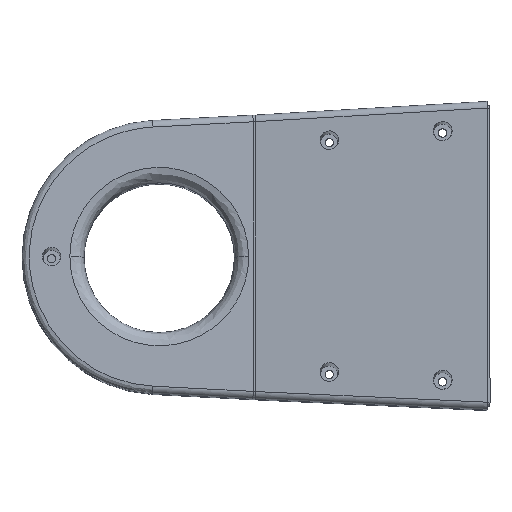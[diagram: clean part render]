
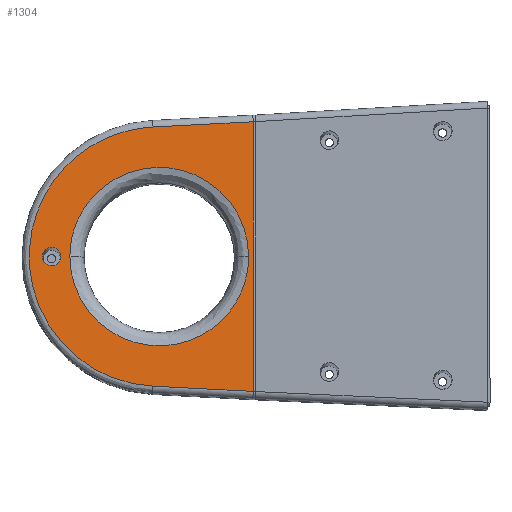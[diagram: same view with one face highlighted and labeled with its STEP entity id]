
A CAD part, left-side view. The second image highlights one B-rep face of the part: STEP entity #1304.
In plain terms, the highlighted planar face has unit normal (-0.998, 0, 0.067).
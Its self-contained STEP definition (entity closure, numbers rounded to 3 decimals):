
#59 = EDGE_LOOP ( 'NONE', ( #3996, #190 ) ) ;
#145 = CARTESIAN_POINT ( 'NONE',  ( 42.486, 103.949, 174.458 ) ) ;
#149 = VECTOR ( 'NONE', #3897, 1000. ) ;
#157 = AXIS2_PLACEMENT_3D ( 'NONE', #2245, #3018, #3399 ) ;
#173 = CARTESIAN_POINT ( 'NONE',  ( 38.249, 103.949, 111.494 ) ) ;
#176 = EDGE_CURVE ( 'NONE', #4676, #1880, #2973, .T. ) ;
#190 = ORIENTED_EDGE ( 'NONE', *, *, #3051, .F. ) ;
#238 = CARTESIAN_POINT ( 'NONE',  ( 42.486, 40.842, 174.458 ) ) ;
#270 = CARTESIAN_POINT ( 'NONE',  ( 45.562, 74.797, 220.175 ) ) ;
#308 = AXIS2_PLACEMENT_3D ( 'NONE', #1126, #4089, #2995 ) ;
#348 =( BOUNDED_CURVE ( )  B_SPLINE_CURVE ( 3, ( #2851, #173, #2110, #238 ),
 .UNSPECIFIED., .F., .F. ) 
 B_SPLINE_CURVE_WITH_KNOTS ( ( 4, 4 ),
 ( 0.5, 1. ),
 .UNSPECIFIED. ) 
 CURVE ( )  GEOMETRIC_REPRESENTATION_ITEM ( )  RATIONAL_B_SPLINE_CURVE ( ( 1., 0.333, 0.333, 1. ) ) 
 REPRESENTATION_ITEM ( '' )  );
#380 = LINE ( 'NONE', #1111, #2396 ) ;
#429 = CARTESIAN_POINT ( 'NONE',  ( 39.409, 74.797, 128.74 ) ) ;
#579 = ORIENTED_EDGE ( 'NONE', *, *, #1422, .F. ) ;
#608 = EDGE_CURVE ( 'NONE', #4713, #909, #1492, .T. ) ;
#626 = CARTESIAN_POINT ( 'NONE',  ( 42.269, 110.395, 171.234 ) ) ;
#796 = CARTESIAN_POINT ( 'NONE',  ( 45.27, 157.641, 215.843 ) ) ;
#909 = VERTEX_POINT ( 'NONE', #626 ) ;
#988 = VECTOR ( 'NONE', #4829, 1000. ) ;
#1111 = CARTESIAN_POINT ( 'NONE',  ( 39.284, 39.24, 126.881 ) ) ;
#1126 = CARTESIAN_POINT ( 'NONE',  ( 42.486, 110.395, 174.458 ) ) ;
#1304 = ADVANCED_FACE ( 'NONE', ( #2210, #1902, #3140 ), #1476, .F. ) ;
#1342 = EDGE_LOOP ( 'NONE', ( #3622, #4690, #1530, #579 ) ) ;
#1394 = CARTESIAN_POINT ( 'NONE',  ( 42.486, 40.842, 174.458 ) ) ;
#1422 = EDGE_CURVE ( 'NONE', #2537, #3434, #3269, .T. ) ;
#1476 = PLANE ( 'NONE',  #157 ) ;
#1492 = CIRCLE ( 'NONE', #308, 3.231 ) ;
#1530 = ORIENTED_EDGE ( 'NONE', *, *, #3846, .F. ) ;
#1540 = ORIENTED_EDGE ( 'NONE', *, *, #2598, .F. ) ;
#1579 = CARTESIAN_POINT ( 'NONE',  ( 39.701, 157.641, 133.072 ) ) ;
#1783 = VERTEX_POINT ( 'NONE', #3879 ) ;
#1880 = VERTEX_POINT ( 'NONE', #1964 ) ;
#1902 = FACE_BOUND ( 'NONE', #59, .T. ) ;
#1964 = CARTESIAN_POINT ( 'NONE',  ( 45.687, 39.24, 222.034 ) ) ;
#1987 = CARTESIAN_POINT ( 'NONE',  ( 45.562, 74.797, 220.175 ) ) ;
#2022 = CARTESIAN_POINT ( 'NONE',  ( 39.284, 39.24, 126.881 ) ) ;
#2040 = CARTESIAN_POINT ( 'NONE',  ( 46.722, 40.842, 237.421 ) ) ;
#2057 = CARTESIAN_POINT ( 'NONE',  ( 42.486, 40.842, 174.458 ) ) ;
#2110 = CARTESIAN_POINT ( 'NONE',  ( 38.249, 40.842, 111.494 ) ) ;
#2210 = FACE_OUTER_BOUND ( 'NONE', #1342, .T. ) ;
#2245 = CARTESIAN_POINT ( 'NONE',  ( 27.942, 120.875, -41.663 ) ) ;
#2377 = ORIENTED_EDGE ( 'NONE', *, *, #608, .F. ) ;
#2396 = VECTOR ( 'NONE', #4483, 1000. ) ;
#2416 = CARTESIAN_POINT ( 'NONE',  ( 45.562, 74.797, 220.175 ) ) ;
#2438 = DIRECTION ( 'NONE',  ( 0.067, 0., 0.998 ) ) ;
#2537 = VERTEX_POINT ( 'NONE', #429 ) ;
#2598 = EDGE_CURVE ( 'NONE', #909, #4713, #2871, .T. ) ;
#2612 = EDGE_CURVE ( 'NONE', #3179, #1783, #4671, .T. ) ;
#2680 = AXIS2_PLACEMENT_3D ( 'NONE', #4693, #4711, #2438 ) ;
#2794 = CARTESIAN_POINT ( 'NONE',  ( 46.722, 103.949, 237.421 ) ) ;
#2851 = CARTESIAN_POINT ( 'NONE',  ( 42.486, 103.949, 174.458 ) ) ;
#2871 = CIRCLE ( 'NONE', #2680, 3.231 ) ;
#2973 = LINE ( 'NONE', #3672, #988 ) ;
#2995 = DIRECTION ( 'NONE',  ( 0.067, 0., 0.998 ) ) ;
#3018 = DIRECTION ( 'NONE',  ( 0.998, 0., -0.067 ) ) ;
#3045 = CARTESIAN_POINT ( 'NONE',  ( 42.702, 110.395, 177.682 ) ) ;
#3051 = EDGE_CURVE ( 'NONE', #1783, #3179, #348, .T. ) ;
#3088 = CARTESIAN_POINT ( 'NONE',  ( 39.409, 74.797, 128.74 ) ) ;
#3140 = FACE_BOUND ( 'NONE', #4846, .T. ) ;
#3179 = VERTEX_POINT ( 'NONE', #1394 ) ;
#3217 = EDGE_CURVE ( 'NONE', #4676, #2537, #380, .T. ) ;
#3269 =( BOUNDED_CURVE ( )  B_SPLINE_CURVE ( 3, ( #3088, #1579, #796, #1987 ),
 .UNSPECIFIED., .F., .F. ) 
 B_SPLINE_CURVE_WITH_KNOTS ( ( 4, 4 ),
 ( 0., 1. ),
 .UNSPECIFIED. ) 
 CURVE ( )  GEOMETRIC_REPRESENTATION_ITEM ( )  RATIONAL_B_SPLINE_CURVE ( ( 1., 0.368, 0.368, 1. ) ) 
 REPRESENTATION_ITEM ( '' )  );
#3375 = LINE ( 'NONE', #2416, #149 ) ;
#3399 = DIRECTION ( 'NONE',  ( -0.067, 0., -0.998 ) ) ;
#3434 = VERTEX_POINT ( 'NONE', #270 ) ;
#3622 = ORIENTED_EDGE ( 'NONE', *, *, #3217, .F. ) ;
#3672 = CARTESIAN_POINT ( 'NONE',  ( 27.942, 39.24, -41.663 ) ) ;
#3846 = EDGE_CURVE ( 'NONE', #3434, #1880, #3375, .T. ) ;
#3879 = CARTESIAN_POINT ( 'NONE',  ( 42.486, 103.949, 174.458 ) ) ;
#3897 = DIRECTION ( 'NONE',  ( 0.004, -0.999, 0.052 ) ) ;
#3996 = ORIENTED_EDGE ( 'NONE', *, *, #2612, .F. ) ;
#4089 = DIRECTION ( 'NONE',  ( -0.998, 0., 0.067 ) ) ;
#4483 = DIRECTION ( 'NONE',  ( 0.004, 0.999, 0.052 ) ) ;
#4671 =( BOUNDED_CURVE ( )  B_SPLINE_CURVE ( 3, ( #2057, #2040, #2794, #145 ),
 .UNSPECIFIED., .F., .T. ) 
 B_SPLINE_CURVE_WITH_KNOTS ( ( 4, 4 ),
 ( 0., 0.5 ),
 .UNSPECIFIED. ) 
 CURVE ( )  GEOMETRIC_REPRESENTATION_ITEM ( )  RATIONAL_B_SPLINE_CURVE ( ( 1., 0.333, 0.333, 1. ) ) 
 REPRESENTATION_ITEM ( '' )  );
#4676 = VERTEX_POINT ( 'NONE', #2022 ) ;
#4690 = ORIENTED_EDGE ( 'NONE', *, *, #176, .T. ) ;
#4693 = CARTESIAN_POINT ( 'NONE',  ( 42.486, 110.395, 174.458 ) ) ;
#4711 = DIRECTION ( 'NONE',  ( -0.998, 0., 0.067 ) ) ;
#4713 = VERTEX_POINT ( 'NONE', #3045 ) ;
#4829 = DIRECTION ( 'NONE',  ( 0.067, 0., 0.998 ) ) ;
#4846 = EDGE_LOOP ( 'NONE', ( #2377, #1540 ) ) ;
